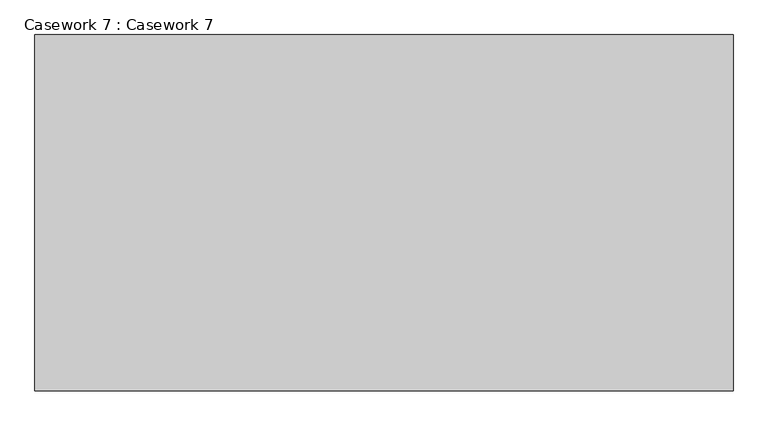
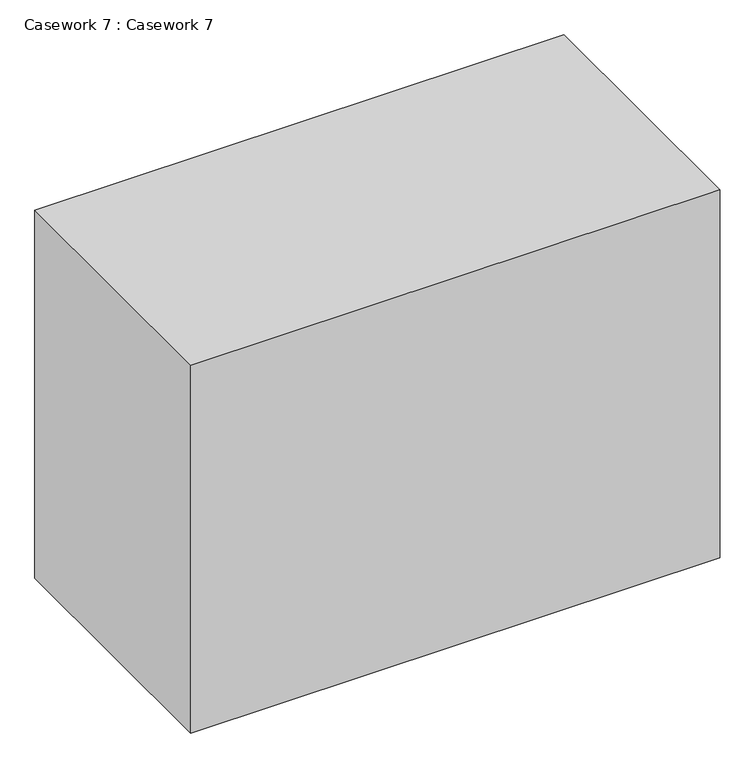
"""IFC4 building model written with IfcOpenShell, lengths in millimetres: furniture geometry, Casework 7 : Casework 7."""

import ifcopenshell
import ifcopenshell.guid

model = None  # the IFC model being written
_history = None  # IfcOwnerHistory: only IFC2X3 demands one
_inside = {}  # id of a spatial element -> (the spatial element, [elements in it])
_under = {}  # id of a project, library or spatial element -> (it, [spatial elements below it])
_declared = {}  # id of a project -> (the project, [libraries it declares])
_typed = {}  # id of a type object -> (the type object, [elements of that type])
_made_of = {}  # id of a material, layer set ... -> (it, [elements and type objects made of it])


def new_model(schema):
    """Start an empty IFC model of exactly this schema.

    Asked for "IFC4X3", IfcOpenShell would pick the latest addendum, in which some entities
    have other attributes; the version numbers below select the first issue.
    IFC2X3 requires an IfcOwnerHistory on every rooted entity: one is made here for all.
    """
    global model, _history
    if schema == "IFC4X3":
        model = ifcopenshell.file(schema_version=(4, 3, 0, 0))
    else:
        model = ifcopenshell.file(schema=schema)
    _inside.clear()
    _under.clear()
    _declared.clear()
    _typed.clear()
    _made_of.clear()
    _history = None
    if model.schema == "IFC2X3":
        org = make("IfcOrganization", Name="unknown")
        user = make(
            "IfcPersonAndOrganization",
            ThePerson=make("IfcPerson", FamilyName="unknown"),
            TheOrganization=org,
        )
        app = make(
            "IfcApplication",
            ApplicationDeveloper=org,
            Version="unknown",
            ApplicationFullName="unknown",
            ApplicationIdentifier="unknown",
        )
        _history = make(
            "IfcOwnerHistory",
            OwningUser=user,
            OwningApplication=app,
            ChangeAction="ADDED",
            CreationDate=0,
        )
    return model


def make(cls, **values):
    """One entity of the class cls with the attributes given. An attribute that is None is left unset."""
    return model.create_entity(
        cls, **{name: value for name, value in values.items() if value is not None}
    )


def rooted(cls, **values):
    """An entity with a GlobalId (a new one), such as an element, a storey or a relation."""
    return make(cls, GlobalId=ifcopenshell.guid.new(), OwnerHistory=_history, **values)


def si_unit(unit_type, name, prefix=None):
    """IfcSIUnit, for example si_unit("LENGTHUNIT", "METRE", prefix="MILLI")."""
    return make("IfcSIUnit", UnitType=unit_type, Prefix=prefix, Name=name)


def assignment(units):
    """IfcUnitAssignment: the units of a project."""
    return None if units is None else make("IfcUnitAssignment", Units=units)


def point(xyz):
    """IfcCartesianPoint."""
    return None if xyz is None else make("IfcCartesianPoint", Coordinates=xyz)


def direction(xyz):
    """IfcDirection."""
    return None if xyz is None else make("IfcDirection", DirectionRatios=xyz)


def frame(location, z_axis=None, x_axis=None):
    """IfcAxis2Placement3D, a coordinate frame: its origin and axes. An axis left out is left unset."""
    return make(
        "IfcAxis2Placement3D",
        Location=point(location),
        Axis=direction(z_axis),
        RefDirection=direction(x_axis),
    )


def origin():
    """The frame at (0, 0, 0) with its axes left unset."""
    return frame((0.0, 0.0, 0.0))


def place(relative_to, where):
    """IfcLocalPlacement: puts the frame where relative to a parent placement (None: the world)."""
    return make(
        "IfcLocalPlacement", PlacementRelTo=relative_to, RelativePlacement=where
    )


def context(
    kind, dimensions, precision=None, world=None, true_north=None, identifier=None
):
    """IfcGeometricRepresentationContext, for example the 3D "Model" context."""
    return make(
        "IfcGeometricRepresentationContext",
        ContextIdentifier=identifier,
        ContextType=kind,
        CoordinateSpaceDimension=dimensions,
        Precision=precision,
        WorldCoordinateSystem=world,
        TrueNorth=true_north,
    )


def project(units=None, contexts=None):
    """IfcProject with its units and contexts."""
    return rooted(
        "IfcProject",
        Name="project",
        RepresentationContexts=contexts,
        UnitsInContext=assignment(units),
    )


def spatial(cls, under=None, at=None, **own):
    """A site, building, storey or space (cls), placed at a placement, below another one or the project."""
    s = rooted(cls, ObjectPlacement=at, **own)
    if under is not None:
        _under.setdefault(under.id(), (under, []))[1].append(s)
    return s


def polyline(points):
    """IfcPolyline through the points."""
    return make("IfcPolyline", Points=[point(p) for p in points])


def outline(outer, holes=None, kind="AREA"):
    """IfcArbitraryClosedProfileDef: a profile drawn as a closed curve; with holes, ...WithVoids."""
    if holes is None:
        return make("IfcArbitraryClosedProfileDef", ProfileType=kind, OuterCurve=outer)
    return make(
        "IfcArbitraryProfileDefWithVoids",
        ProfileType=kind,
        OuterCurve=outer,
        InnerCurves=holes,
    )


def extrude(swept, where, along, depth):
    """IfcExtrudedAreaSolid: the profile swept, set in the frame where, extruded along a direction by depth."""
    return make(
        "IfcExtrudedAreaSolid",
        SweptArea=swept,
        Position=where,
        ExtrudedDirection=direction(along),
        Depth=depth,
    )


def shape(context_of_items, identifier, shape_type, items):
    """IfcShapeRepresentation: the items that make up one representation, for example the "Body"."""
    return make(
        "IfcShapeRepresentation",
        ContextOfItems=context_of_items,
        RepresentationIdentifier=identifier,
        RepresentationType=shape_type,
        Items=items,
    )


def source(mapping_origin, context_of_items, identifier, shape_type, items):
    """IfcRepresentationMap: a shape defined once, which mapped items show again and again."""
    return make(
        "IfcRepresentationMap",
        MappingOrigin=mapping_origin,
        MappedRepresentation=shape(context_of_items, identifier, shape_type, items),
    )


def transform(
    local_origin,
    x_axis=None,
    y_axis=None,
    z_axis=None,
    scale=None,
    scale2=None,
    scale3=None,
    uniform=True,
):
    """IfcCartesianTransformationOperator3D, or its non-uniform kind. x_axis, y_axis, z_axis: its Axis1, 2, 3."""
    if uniform:
        return make(
            "IfcCartesianTransformationOperator3D",
            Axis1=direction(x_axis),
            Axis2=direction(y_axis),
            LocalOrigin=point(local_origin),
            Scale=scale,
            Axis3=direction(z_axis),
        )
    return make(
        "IfcCartesianTransformationOperator3DnonUniform",
        Axis1=direction(x_axis),
        Axis2=direction(y_axis),
        LocalOrigin=point(local_origin),
        Scale=scale,
        Axis3=direction(z_axis),
        Scale2=scale2,
        Scale3=scale3,
    )


def mapped(mapping_source, mapping_target):
    """IfcMappedItem: shows the shape of a source again, moved by a transform."""
    return make(
        "IfcMappedItem", MappingSource=mapping_source, MappingTarget=mapping_target
    )


def made_of(thing, what):
    """Note that an element or type object is made of a material, layer set ...; save() writes the relation."""
    if what is not None:
        _made_of.setdefault(what.id(), (what, []))[1].append(thing)
    return thing


def element(
    cls,
    number,
    at=None,
    inside=None,
    cuts=None,
    type_object=None,
    material=None,
    context=None,
    identifier="Body",
    shape_type=None,
    held_by="IfcProductDefinitionShape",
    body=None,
    shapes=None,
    **own,
):
    """One element of the class cls, such as IfcWall. Its Tag is "e" and its number.

    at: its placement. inside: the storey or other place that contains it. cuts: it is an
    opening in that element (IfcRelVoidsElement). A single representation is given by context,
    identifier, shape_type and body (its items); several are given by shapes. held_by: the class
    of the entity that holds the representations. save() writes the other relations.
    """
    e = rooted(cls, Tag="e%d" % number, ObjectPlacement=at, **own)
    if body is not None:
        shapes = [shape(context, identifier, shape_type, body)]
    if shapes is not None:
        e.Representation = make(held_by, Representations=shapes)
    if inside is not None:
        _inside.setdefault(inside.id(), (inside, []))[1].append(e)
    if cuts is not None:
        rooted(
            "IfcRelVoidsElement", RelatingBuildingElement=cuts, RelatedOpeningElement=e
        )
    if type_object is not None:
        _typed.setdefault(type_object.id(), (type_object, []))[1].append(e)
    return made_of(e, material)


def aggregate(whole, parts):
    """IfcRelAggregates: a whole, such as a stair, and the parts it consists of."""
    return rooted("IfcRelAggregates", RelatingObject=whole, RelatedObjects=parts)


def save(model, path):
    """Write the relations noted so far, then the file.

    IfcRelAggregates (storeys below a building ...), IfcRelContainedInSpatialStructure (elements
    in a storey), IfcRelDefinesByType, IfcRelAssociatesMaterial and IfcRelDeclares: one each for
    every whole, place, type object, material and project.
    """
    for whole, parts in _under.values():
        aggregate(whole, parts)
    for where, things in _inside.values():
        rooted(
            "IfcRelContainedInSpatialStructure",
            RelatedElements=things,
            RelatingStructure=where,
        )
    for kind, things in _typed.values():
        rooted("IfcRelDefinesByType", RelatedObjects=things, RelatingType=kind)
    for what, things in _made_of.values():
        rooted("IfcRelAssociatesMaterial", RelatedObjects=things, RelatingMaterial=what)
    for by, libraries in _declared.values():
        rooted("IfcRelDeclares", RelatingContext=by, RelatedDefinitions=libraries)
    model.write(path)


def casework_7_casework_7_954245c9(model_context):
    return source(origin(), model_context, "Body", "SweptSolid", [
        extrude(outline(polyline([(2870.2, 9410.5947939), (1625.6, 9410.5947939), (1625.6, 10045.7), (2870.2, 10045.7), (2870.2, 9410.5947939)])), frame((0.0, 0.0, 3348.0), z_axis=(0.0, 0.0, 1.0), x_axis=(1.0, 0.0, 0.0)), (0.0, 0.0, 1.0), 914.4),
    ])


if __name__ == "__main__":
    model = new_model("IFC4")
    model_context = context("Model", 3, world=origin())
    ifc_project = project(units=[si_unit("LENGTHUNIT", "METRE", prefix="MILLI")], contexts=[model_context])
    site = spatial("IfcSite", under=ifc_project)
    building = spatial("IfcBuilding", under=site)
    placement = place(None, origin())
    casework_7_casework_7_shape = casework_7_casework_7_954245c9(model_context)
    element("IfcFurniture", 1, ObjectType="Casework 7 : Casework 7", at=placement, inside=building, context=model_context, shape_type="MappedRepresentation", body=[
        mapped(casework_7_casework_7_shape, transform((0.0, 0.0, 0.0), x_axis=(1.0, 0.0, 0.0), y_axis=(0.0, 1.0, 0.0), z_axis=(0.0, 0.0, 1.0))),
    ])
    save(model, "model.ifc")
